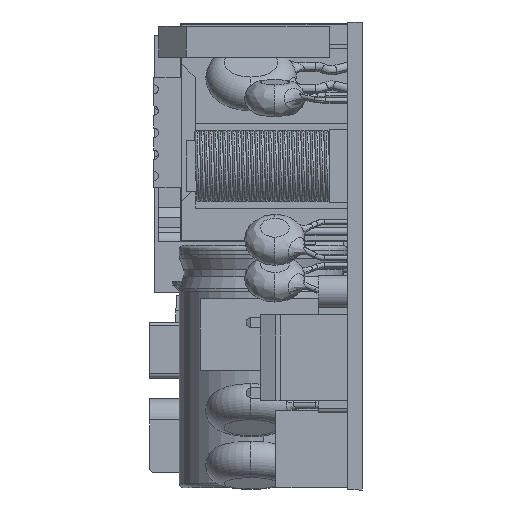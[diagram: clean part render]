
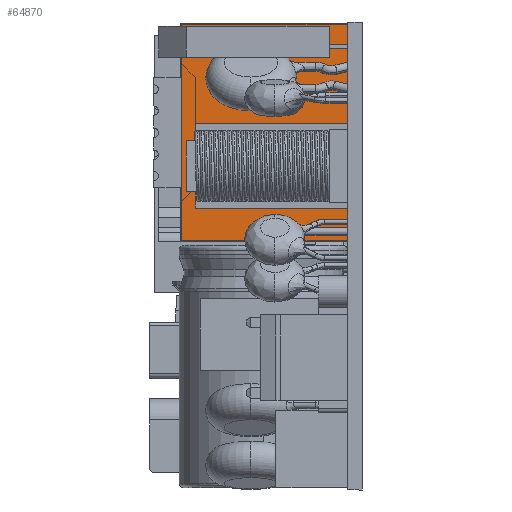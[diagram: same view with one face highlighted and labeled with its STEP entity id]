
A CAD part, left-side view. The second image highlights one B-rep face of the part: STEP entity #64870.
In plain terms, the highlighted planar face has unit normal (-1, 0, 0).
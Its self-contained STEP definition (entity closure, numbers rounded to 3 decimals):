
#5749 = CARTESIAN_POINT ( 'NONE',  ( -7.45, 45.91, 11.8 ) ) ;
#6626 = LINE ( 'NONE', #62246, #38600 ) ;
#8928 = VERTEX_POINT ( 'NONE', #35451 ) ;
#9946 = CARTESIAN_POINT ( 'NONE',  ( -7.45, 0., -11.8 ) ) ;
#16824 = VERTEX_POINT ( 'NONE', #34599 ) ;
#18515 = EDGE_CURVE ( 'NONE', #88182, #16824, #6626, .T. ) ;
#34599 = CARTESIAN_POINT ( 'NONE',  ( -7.45, 18., 11.8 ) ) ;
#34631 = LINE ( 'NONE', #9946, #96013 ) ;
#35451 = CARTESIAN_POINT ( 'NONE',  ( -7.45, 0., 11.8 ) ) ;
#38600 = VECTOR ( 'NONE', #52369, 1000. ) ;
#39753 = DIRECTION ( 'NONE',  ( 0., 0., -1. ) ) ;
#43802 = ORIENTED_EDGE ( 'NONE', *, *, #98783, .F. ) ;
#47010 = VECTOR ( 'NONE', #97331, 1000. ) ;
#50402 = CARTESIAN_POINT ( 'NONE',  ( -7.45, 0., -11.8 ) ) ;
#52369 = DIRECTION ( 'NONE',  ( 0., 0., 1. ) ) ;
#52467 = ORIENTED_EDGE ( 'NONE', *, *, #79082, .F. ) ;
#52576 = AXIS2_PLACEMENT_3D ( 'NONE', #86352, #94834, #39753 ) ;
#54946 = PLANE ( 'NONE',  #52576 ) ;
#62246 = CARTESIAN_POINT ( 'NONE',  ( -7.45, 18., -11.8 ) ) ;
#62954 = CARTESIAN_POINT ( 'NONE',  ( -7.45, 18., -11.8 ) ) ;
#64870 = ADVANCED_FACE ( 'NONE', ( #77975 ), #54946, .F. ) ;
#72659 = ORIENTED_EDGE ( 'NONE', *, *, #18515, .F. ) ;
#72725 = VECTOR ( 'NONE', #95499, 1000. ) ;
#73678 = CARTESIAN_POINT ( 'NONE',  ( -7.45, 45.91, -11.8 ) ) ;
#73995 = DIRECTION ( 'NONE',  ( 0., 0., -1. ) ) ;
#76051 = VERTEX_POINT ( 'NONE', #50402 ) ;
#77975 = FACE_OUTER_BOUND ( 'NONE', #89609, .T. ) ;
#79082 = EDGE_CURVE ( 'NONE', #76051, #88182, #98344, .T. ) ;
#81057 = EDGE_CURVE ( 'NONE', #8928, #76051, #34631, .T. ) ;
#85563 = ORIENTED_EDGE ( 'NONE', *, *, #81057, .F. ) ;
#85959 = LINE ( 'NONE', #5749, #72725 ) ;
#86352 = CARTESIAN_POINT ( 'NONE',  ( -7.45, 45.91, -11.8 ) ) ;
#88182 = VERTEX_POINT ( 'NONE', #62954 ) ;
#89609 = EDGE_LOOP ( 'NONE', ( #72659, #52467, #85563, #43802 ) ) ;
#94834 = DIRECTION ( 'NONE',  ( 1., 0., 0. ) ) ;
#95499 = DIRECTION ( 'NONE',  ( 0., -1., 0. ) ) ;
#96013 = VECTOR ( 'NONE', #73995, 1000. ) ;
#97331 = DIRECTION ( 'NONE',  ( 0., 1., 0. ) ) ;
#98344 = LINE ( 'NONE', #73678, #47010 ) ;
#98783 = EDGE_CURVE ( 'NONE', #16824, #8928, #85959, .T. ) ;
